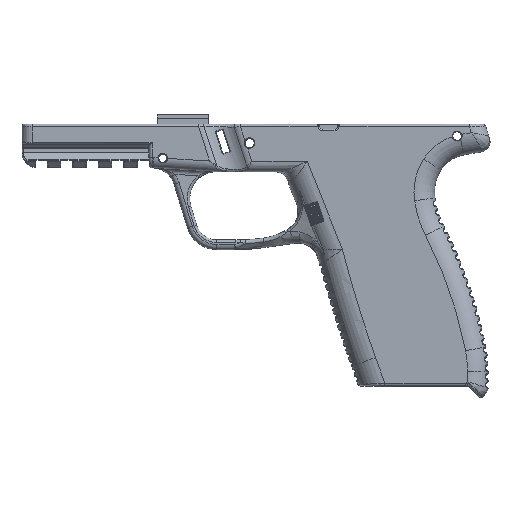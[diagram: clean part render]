
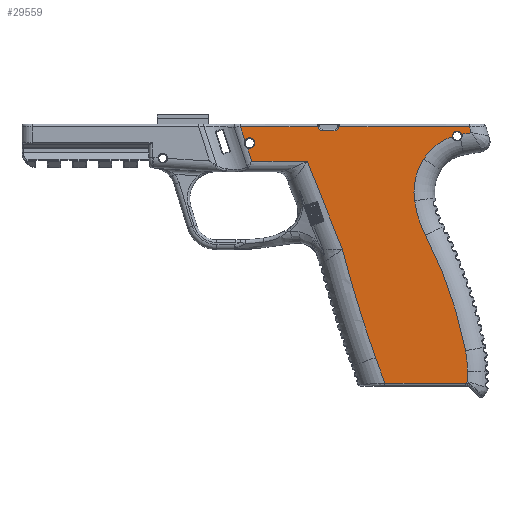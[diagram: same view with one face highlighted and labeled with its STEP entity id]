
A CAD part, top view. The second image highlights one B-rep face of the part: STEP entity #29559.
In plain terms, the highlighted planar face has unit normal (0, 0, 1).
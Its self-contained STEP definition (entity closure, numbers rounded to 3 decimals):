
#1437=B_SPLINE_CURVE_WITH_KNOTS('',3,(#66819,#66820,#66821,#66822),
 .UNSPECIFIED.,.F.,.F.,(4,4),(0.,0.005),.UNSPECIFIED.);
#1439=B_SPLINE_CURVE_WITH_KNOTS('',3,(#66893,#66894,#66895,#66896),
 .UNSPECIFIED.,.F.,.F.,(4,4),(-0.221,-0.216),
 .UNSPECIFIED.);
#3761=CIRCLE('',#31675,167.5);
#3862=CIRCLE('',#31857,42.121);
#3886=CIRCLE('',#31887,440.);
#4133=CIRCLE('',#32380,1.9);
#4134=CIRCLE('',#32382,42.);
#4135=CIRCLE('',#32383,24.045);
#4136=CIRCLE('',#32384,21.06);
#4137=CIRCLE('',#32385,1.5);
#4138=CIRCLE('',#32386,1.5);
#4139=CIRCLE('',#32387,2.05);
#6014=FACE_OUTER_BOUND('',#7968,.T.);
#7968=EDGE_LOOP('',(#24853,#24854,#24855,#24856,#24857,#24858,#24859,#24860,
#24861,#24862,#24863,#24864,#24865,#24866,#24867,#24868,#24869,#24870,#24871,
#24872,#24873,#24874,#24875,#24876,#24877));
#9359=LINE('',#51682,#10866);
#9498=LINE('',#59740,#11005);
#9615=LINE('',#64769,#11122);
#9619=LINE('',#64841,#11126);
#9643=LINE('',#65689,#11150);
#9644=LINE('',#65711,#11151);
#9645=LINE('',#65733,#11152);
#9694=LINE('',#66923,#11201);
#9695=LINE('',#66925,#11202);
#9696=LINE('',#66927,#11203);
#9697=LINE('',#66931,#11204);
#9698=LINE('',#66934,#11205);
#9699=LINE('',#66936,#11206);
#10866=VECTOR('',#36745,10.);
#11005=VECTOR('',#37728,10.);
#11122=VECTOR('',#38293,10.);
#11126=VECTOR('',#38315,10.);
#11150=VECTOR('',#38515,10.);
#11151=VECTOR('',#38516,10.);
#11152=VECTOR('',#38521,10.);
#11201=VECTOR('',#38844,10.);
#11202=VECTOR('',#38845,10.);
#11203=VECTOR('',#38846,10.);
#11204=VECTOR('',#38849,10.);
#11205=VECTOR('',#38852,10.);
#11206=VECTOR('',#38855,10.);
#12758=VERTEX_POINT('',#51679);
#12759=VERTEX_POINT('',#51681);
#12975=VERTEX_POINT('',#54969);
#12976=VERTEX_POINT('',#54971);
#13092=VERTEX_POINT('',#58208);
#13160=VERTEX_POINT('',#58990);
#13161=VERTEX_POINT('',#58992);
#13228=VERTEX_POINT('',#59738);
#13400=VERTEX_POINT('',#64768);
#13455=VERTEX_POINT('',#65594);
#13457=VERTEX_POINT('',#65688);
#13459=VERTEX_POINT('',#65701);
#13460=VERTEX_POINT('',#65710);
#13461=VERTEX_POINT('',#65718);
#13543=VERTEX_POINT('',#66781);
#13544=VERTEX_POINT('',#66798);
#13545=VERTEX_POINT('',#66800);
#13546=VERTEX_POINT('',#66863);
#13548=VERTEX_POINT('',#66919);
#13549=VERTEX_POINT('',#66922);
#13550=VERTEX_POINT('',#66924);
#13551=VERTEX_POINT('',#66926);
#13552=VERTEX_POINT('',#66928);
#13553=VERTEX_POINT('',#66930);
#13554=VERTEX_POINT('',#66932);
#16051=EDGE_CURVE('',#12758,#12759,#9359,.T.);
#16383=EDGE_CURVE('',#12975,#12976,#3761,.T.);
#16638=EDGE_CURVE('',#13092,#12975,#3862,.T.);
#16718=EDGE_CURVE('',#13160,#13161,#3886,.T.);
#16798=EDGE_CURVE('',#13228,#13160,#9498,.T.);
#17157=EDGE_CURVE('',#12759,#13400,#9615,.T.);
#17169=EDGE_CURVE('',#13400,#13228,#9619,.T.);
#17273=EDGE_CURVE('',#13455,#13457,#9643,.T.);
#17276=EDGE_CURVE('',#13459,#13460,#9644,.T.);
#17280=EDGE_CURVE('',#13461,#13455,#9645,.T.);
#17435=EDGE_CURVE('',#13544,#13545,#4133,.T.);
#17437=EDGE_CURVE('',#13545,#13543,#1437,.T.);
#17441=EDGE_CURVE('',#13546,#13544,#1439,.T.);
#17443=EDGE_CURVE('',#12976,#12758,#4134,.T.);
#17444=EDGE_CURVE('',#13548,#13092,#4135,.T.);
#17445=EDGE_CURVE('',#13543,#13548,#4136,.T.);
#17446=EDGE_CURVE('',#13549,#13546,#9694,.T.);
#17447=EDGE_CURVE('',#13550,#13549,#9695,.T.);
#17448=EDGE_CURVE('',#13551,#13550,#9696,.T.);
#17449=EDGE_CURVE('',#13552,#13551,#4137,.T.);
#17450=EDGE_CURVE('',#13553,#13552,#9697,.T.);
#17451=EDGE_CURVE('',#13554,#13553,#4138,.T.);
#17452=EDGE_CURVE('',#13460,#13554,#9698,.T.);
#17453=EDGE_CURVE('',#13457,#13459,#4139,.T.);
#17454=EDGE_CURVE('',#13161,#13461,#9699,.T.);
#24853=ORIENTED_EDGE('',*,*,#17169,.F.);
#24854=ORIENTED_EDGE('',*,*,#17157,.F.);
#24855=ORIENTED_EDGE('',*,*,#16051,.F.);
#24856=ORIENTED_EDGE('',*,*,#17443,.F.);
#24857=ORIENTED_EDGE('',*,*,#16383,.F.);
#24858=ORIENTED_EDGE('',*,*,#16638,.F.);
#24859=ORIENTED_EDGE('',*,*,#17444,.F.);
#24860=ORIENTED_EDGE('',*,*,#17445,.F.);
#24861=ORIENTED_EDGE('',*,*,#17437,.F.);
#24862=ORIENTED_EDGE('',*,*,#17435,.F.);
#24863=ORIENTED_EDGE('',*,*,#17441,.F.);
#24864=ORIENTED_EDGE('',*,*,#17446,.F.);
#24865=ORIENTED_EDGE('',*,*,#17447,.F.);
#24866=ORIENTED_EDGE('',*,*,#17448,.F.);
#24867=ORIENTED_EDGE('',*,*,#17449,.F.);
#24868=ORIENTED_EDGE('',*,*,#17450,.F.);
#24869=ORIENTED_EDGE('',*,*,#17451,.F.);
#24870=ORIENTED_EDGE('',*,*,#17452,.F.);
#24871=ORIENTED_EDGE('',*,*,#17276,.F.);
#24872=ORIENTED_EDGE('',*,*,#17453,.F.);
#24873=ORIENTED_EDGE('',*,*,#17273,.F.);
#24874=ORIENTED_EDGE('',*,*,#17280,.F.);
#24875=ORIENTED_EDGE('',*,*,#17454,.F.);
#24876=ORIENTED_EDGE('',*,*,#16718,.F.);
#24877=ORIENTED_EDGE('',*,*,#16798,.F.);
#28189=PLANE('',#32381);
#29559=ADVANCED_FACE('',(#6014),#28189,.T.);
#31675=AXIS2_PLACEMENT_3D('',#54972,#37146,#37147);
#31857=AXIS2_PLACEMENT_3D('',#58210,#37580,#37581);
#31887=AXIS2_PLACEMENT_3D('',#58993,#37645,#37646);
#32380=AXIS2_PLACEMENT_3D('',#66801,#38831,#38832);
#32381=AXIS2_PLACEMENT_3D('',#66917,#38836,#38837);
#32382=AXIS2_PLACEMENT_3D('',#66918,#38838,#38839);
#32383=AXIS2_PLACEMENT_3D('',#66920,#38840,#38841);
#32384=AXIS2_PLACEMENT_3D('',#66921,#38842,#38843);
#32385=AXIS2_PLACEMENT_3D('',#66929,#38847,#38848);
#32386=AXIS2_PLACEMENT_3D('',#66933,#38850,#38851);
#32387=AXIS2_PLACEMENT_3D('',#66935,#38853,#38854);
#36745=DIRECTION('',(0.,-1.,0.));
#37146=DIRECTION('center_axis',(0.,0.,-1.));
#37147=DIRECTION('ref_axis',(0.945,0.327,0.));
#37580=DIRECTION('center_axis',(0.,0.,1.));
#37581=DIRECTION('ref_axis',(-0.953,-0.303,0.));
#37645=DIRECTION('center_axis',(0.,0.,-1.));
#37646=DIRECTION('ref_axis',(-0.956,-0.294,0.));
#37728=DIRECTION('',(-0.34,0.94,0.));
#38293=DIRECTION('',(-0.839,-0.545,0.));
#38315=DIRECTION('',(-1.,0.,0.));
#38515=DIRECTION('',(-0.309,0.951,0.));
#38516=DIRECTION('',(-0.309,0.951,0.));
#38521=DIRECTION('',(-1.,0.,0.));
#38831=DIRECTION('center_axis',(0.,0.,1.));
#38832=DIRECTION('ref_axis',(-1.,0.,0.));
#38836=DIRECTION('center_axis',(0.,0.,1.));
#38837=DIRECTION('ref_axis',(1.,0.,0.));
#38838=DIRECTION('center_axis',(0.,0.,-1.));
#38839=DIRECTION('ref_axis',(0.995,0.095,0.));
#38840=DIRECTION('center_axis',(0.,0.,1.));
#38841=DIRECTION('ref_axis',(-0.978,0.21,0.));
#38842=DIRECTION('center_axis',(0.,0.,1.));
#38843=DIRECTION('ref_axis',(-0.557,0.83,0.));
#38844=DIRECTION('',(-0.985,-0.174,0.));
#38845=DIRECTION('',(0.309,-0.951,0.));
#38846=DIRECTION('',(1.,0.,0.));
#38847=DIRECTION('center_axis',(0.,0.,1.));
#38848=DIRECTION('ref_axis',(0.707,-0.707,0.));
#38849=DIRECTION('',(1.,0.,0.));
#38850=DIRECTION('center_axis',(0.,0.,1.));
#38851=DIRECTION('ref_axis',(-0.707,-0.707,0.));
#38852=DIRECTION('',(1.,0.,0.));
#38853=DIRECTION('center_axis',(0.,0.,1.));
#38854=DIRECTION('ref_axis',(1.,0.,0.));
#38855=DIRECTION('',(-0.371,0.929,0.));
#51679=CARTESIAN_POINT('',(88.137,-52.304,13.5));
#51681=CARTESIAN_POINT('',(88.137,-56.419,13.5));
#51682=CARTESIAN_POINT('',(88.137,-33.837,13.5));
#54969=CARTESIAN_POINT('',(71.832,0.566,13.5));
#54971=CARTESIAN_POINT('',(87.374,-44.334,13.5));
#54972=CARTESIAN_POINT('Origin',(-77.082,-76.119,13.5));
#58208=CARTESIAN_POINT('',(67.574,13.949,13.5));
#58210=CARTESIAN_POINT('Origin',(109.279,19.85,13.5));
#58990=CARTESIAN_POINT('',(52.42,-46.966,13.5));
#58992=CARTESIAN_POINT('',(39.532,-4.905,13.5));
#58993=CARTESIAN_POINT('Origin',(466.143,102.814,13.5));
#59738=CARTESIAN_POINT('',(56.053,-57.,13.5));
#59740=CARTESIAN_POINT('',(45.005,-26.484,13.5));
#64768=CARTESIAN_POINT('',(87.243,-57.,13.5));
#64769=CARTESIAN_POINT('',(68.337,-69.278,13.5));
#64841=CARTESIAN_POINT('',(26.346,-57.,13.5));
#65594=CARTESIAN_POINT('',(4.307,29.25,13.5));
#65688=CARTESIAN_POINT('',(2.598,34.51,13.5));
#65689=CARTESIAN_POINT('',(2.358,35.25,13.5));
#65701=CARTESIAN_POINT('',(1.665,37.383,13.5));
#65710=CARTESIAN_POINT('',(-0.079,42.75,13.5));
#65711=CARTESIAN_POINT('',(2.358,35.25,13.5));
#65718=CARTESIAN_POINT('',(25.898,29.25,13.5));
#65733=CARTESIAN_POINT('',(7.909,29.25,13.5));
#66781=CARTESIAN_POINT('',(82.238,38.904,13.5));
#66798=CARTESIAN_POINT('',(85.892,39.825,13.5));
#66800=CARTESIAN_POINT('',(82.232,38.962,13.5));
#66801=CARTESIAN_POINT('Origin',(84.125,39.125,13.5));
#66819=CARTESIAN_POINT('Ctrl Pts',(82.232,38.962,13.5));
#66820=CARTESIAN_POINT('Ctrl Pts',(82.234,38.942,13.5));
#66821=CARTESIAN_POINT('Ctrl Pts',(82.236,38.923,13.5));
#66822=CARTESIAN_POINT('Ctrl Pts',(82.238,38.904,13.5));
#66863=CARTESIAN_POINT('',(85.91,39.777,13.5));
#66893=CARTESIAN_POINT('Ctrl Pts',(85.91,39.777,13.5));
#66894=CARTESIAN_POINT('Ctrl Pts',(85.904,39.793,13.5));
#66895=CARTESIAN_POINT('Ctrl Pts',(85.898,39.809,13.5));
#66896=CARTESIAN_POINT('Ctrl Pts',(85.892,39.825,13.5));
#66917=CARTESIAN_POINT('Origin',(4.319,-9.978,13.5));
#66918=CARTESIAN_POINT('Origin',(46.137,-52.304,13.5));
#66919=CARTESIAN_POINT('',(71.05,30.155,13.5));
#66920=CARTESIAN_POINT('Origin',(91.382,17.318,13.5));
#66921=CARTESIAN_POINT('Origin',(88.858,18.911,13.5));
#66922=CARTESIAN_POINT('',(89.647,40.436,13.5));
#66923=CARTESIAN_POINT('',(41.632,31.969,13.5));
#66924=CARTESIAN_POINT('',(88.895,42.75,13.5));
#66925=CARTESIAN_POINT('',(93.252,29.341,13.5));
#66926=CARTESIAN_POINT('',(38.15,42.75,13.5));
#66927=CARTESIAN_POINT('',(48.284,42.75,13.5));
#66928=CARTESIAN_POINT('',(36.65,41.25,13.5));
#66929=CARTESIAN_POINT('Origin',(36.65,42.75,13.5));
#66930=CARTESIAN_POINT('',(31.65,41.25,13.5));
#66931=CARTESIAN_POINT('',(20.984,41.25,13.5));
#66932=CARTESIAN_POINT('',(30.15,42.75,13.5));
#66933=CARTESIAN_POINT('Origin',(31.65,42.75,13.5));
#66934=CARTESIAN_POINT('',(48.284,42.75,13.5));
#66935=CARTESIAN_POINT('Origin',(3.45,36.375,13.5));
#66936=CARTESIAN_POINT('',(37.534,0.1,13.5));
